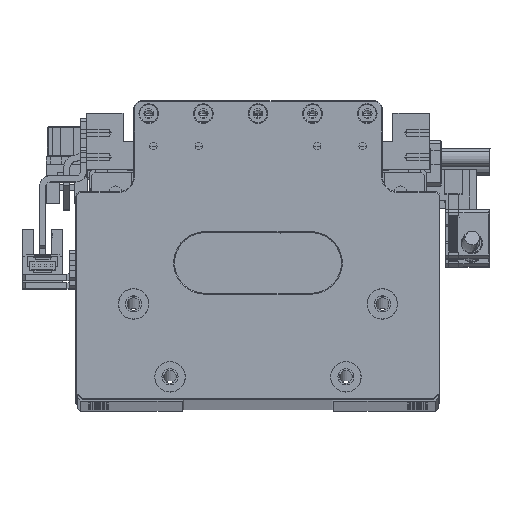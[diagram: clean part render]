
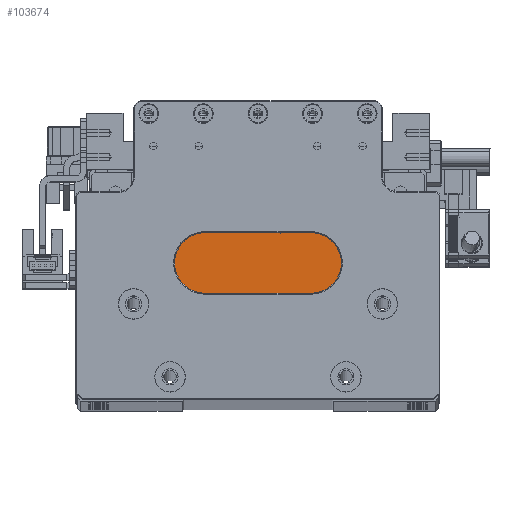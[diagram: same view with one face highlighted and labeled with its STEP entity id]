
A CAD part, top view. The second image highlights one B-rep face of the part: STEP entity #103674.
In plain terms, the highlighted planar face has unit normal (0, 0, 1).
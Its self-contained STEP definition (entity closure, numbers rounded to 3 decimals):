
#162 = VECTOR ( 'NONE', #56222, 1000. ) ;
#273 = CIRCLE ( 'NONE', #59998, 1.25 ) ;
#768 = CARTESIAN_POINT ( 'NONE',  ( -4.632, -9.023, 375. ) ) ;
#1049 = CIRCLE ( 'NONE', #133141, 1.25 ) ;
#3103 = CARTESIAN_POINT ( 'NONE',  ( -4.632, -9.223, 375. ) ) ;
#6518 = CARTESIAN_POINT ( 'NONE',  ( 2.868, -17.023, 375. ) ) ;
#8401 = VECTOR ( 'NONE', #45141, 1000. ) ;
#8698 = CIRCLE ( 'NONE', #129724, 1.25 ) ;
#11220 = PLANE ( 'NONE',  #21673 ) ;
#13493 = CARTESIAN_POINT ( 'NONE',  ( 1.618, -17.023, 375. ) ) ;
#15220 = DIRECTION ( 'NONE',  ( 1., 0., 0. ) ) ;
#15268 = CARTESIAN_POINT ( 'NONE',  ( -13.382, -17.023, 375. ) ) ;
#15994 = FACE_BOUND ( 'NONE', #131656, .T. ) ;
#16270 = LINE ( 'NONE', #3103, #68364 ) ;
#16947 = DIRECTION ( 'NONE',  ( 1., 0., 0. ) ) ;
#17912 = VERTEX_POINT ( 'NONE', #30763 ) ;
#18934 = EDGE_CURVE ( 'NONE', #51951, #94265, #50360, .T. ) ;
#19241 = FACE_BOUND ( 'NONE', #106502, .T. ) ;
#20158 = VERTEX_POINT ( 'NONE', #88902 ) ;
#21673 = AXIS2_PLACEMENT_3D ( 'NONE', #768, #42563, #115554 ) ;
#23333 = ORIENTED_EDGE ( 'NONE', *, *, #28332, .T. ) ;
#23500 = EDGE_LOOP ( 'NONE', ( #82358, #80773, #129849, #69520, #64693, #35219, #110335, #129970 ) ) ;
#24343 = DIRECTION ( 'NONE',  ( 0., 0., -1. ) ) ;
#25203 = CARTESIAN_POINT ( 'NONE',  ( 13.868, -17.023, 375. ) ) ;
#26273 = DIRECTION ( 'NONE',  ( 0., 1., 0. ) ) ;
#27765 = LINE ( 'NONE', #100348, #97898 ) ;
#28332 = EDGE_CURVE ( 'NONE', #77955, #126655, #8698, .T. ) ;
#30763 = CARTESIAN_POINT ( 'NONE',  ( -23.132, -9.223, 375. ) ) ;
#30892 = EDGE_CURVE ( 'NONE', #69921, #94593, #273, .T. ) ;
#32246 = EDGE_CURVE ( 'NONE', #117136, #63573, #110963, .T. ) ;
#33551 = DIRECTION ( 'NONE',  ( 0., 0., -1. ) ) ;
#34508 = ORIENTED_EDGE ( 'NONE', *, *, #73590, .T. ) ;
#35219 = ORIENTED_EDGE ( 'NONE', *, *, #18934, .T. ) ;
#37523 = CARTESIAN_POINT ( 'NONE',  ( -23.132, -17.023, 375. ) ) ;
#38745 = ORIENTED_EDGE ( 'NONE', *, *, #30892, .T. ) ;
#38858 = CARTESIAN_POINT ( 'NONE',  ( 25.168, -9.023, 375. ) ) ;
#39137 = EDGE_CURVE ( 'NONE', #94593, #69921, #69223, .T. ) ;
#40345 = DIRECTION ( 'NONE',  ( 1., 0., 0. ) ) ;
#42563 = DIRECTION ( 'NONE',  ( 0., 0., 1. ) ) ;
#43636 = FACE_OUTER_BOUND ( 'NONE', #23500, .T. ) ;
#44846 = EDGE_CURVE ( 'NONE', #94265, #66167, #91511, .T. ) ;
#45141 = DIRECTION ( 'NONE',  ( -1., 0., 0. ) ) ;
#49297 = DIRECTION ( 'NONE',  ( 0., 1., 0. ) ) ;
#50360 = LINE ( 'NONE', #38858, #102622 ) ;
#51951 = VERTEX_POINT ( 'NONE', #77062 ) ;
#52774 = VECTOR ( 'NONE', #26273, 1000. ) ;
#56222 = DIRECTION ( 'NONE',  ( -1., 0., 0. ) ) ;
#58092 = CARTESIAN_POINT ( 'NONE',  ( 25.168, -17.023, 375. ) ) ;
#58133 = CARTESIAN_POINT ( 'NONE',  ( 13.868, -9.023, 375. ) ) ;
#59998 = AXIS2_PLACEMENT_3D ( 'NONE', #6518, #79350, #16947 ) ;
#62364 = EDGE_CURVE ( 'NONE', #62847, #51951, #133070, .T. ) ;
#62847 = VERTEX_POINT ( 'NONE', #63088 ) ;
#63088 = CARTESIAN_POINT ( 'NONE',  ( -34.432, -49.223, 375. ) ) ;
#63573 = VERTEX_POINT ( 'NONE', #74780 ) ;
#64693 = ORIENTED_EDGE ( 'NONE', *, *, #62364, .T. ) ;
#66167 = VERTEX_POINT ( 'NONE', #25203 ) ;
#67964 = DIRECTION ( 'NONE',  ( 0., -1., 0. ) ) ;
#68364 = VECTOR ( 'NONE', #106904, 1000. ) ;
#69223 = CIRCLE ( 'NONE', #104348, 1.25 ) ;
#69520 = ORIENTED_EDGE ( 'NONE', *, *, #105336, .T. ) ;
#69921 = VERTEX_POINT ( 'NONE', #80399 ) ;
#73590 = EDGE_CURVE ( 'NONE', #126655, #77955, #1049, .T. ) ;
#74477 = LINE ( 'NONE', #99449, #105472 ) ;
#74780 = CARTESIAN_POINT ( 'NONE',  ( -34.432, -17.023, 375. ) ) ;
#77062 = CARTESIAN_POINT ( 'NONE',  ( 25.168, -49.223, 375. ) ) ;
#77591 = DIRECTION ( 'NONE',  ( 0., 0., -1. ) ) ;
#77593 = VECTOR ( 'NONE', #40345, 1000. ) ;
#77955 = VERTEX_POINT ( 'NONE', #15268 ) ;
#79350 = DIRECTION ( 'NONE',  ( 0., 0., -1. ) ) ;
#80399 = CARTESIAN_POINT ( 'NONE',  ( 4.118, -17.023, 375. ) ) ;
#80523 = LINE ( 'NONE', #58133, #52774 ) ;
#80773 = ORIENTED_EDGE ( 'NONE', *, *, #81780, .T. ) ;
#81780 = EDGE_CURVE ( 'NONE', #17912, #117136, #74477, .T. ) ;
#82358 = ORIENTED_EDGE ( 'NONE', *, *, #116907, .T. ) ;
#86158 = ORIENTED_EDGE ( 'NONE', *, *, #39137, .T. ) ;
#86800 = CARTESIAN_POINT ( 'NONE',  ( 2.868, -17.023, 375. ) ) ;
#88902 = CARTESIAN_POINT ( 'NONE',  ( 13.868, -9.223, 375. ) ) ;
#89904 = DIRECTION ( 'NONE',  ( 0., -1., 0. ) ) ;
#91511 = LINE ( 'NONE', #128596, #8401 ) ;
#94122 = CARTESIAN_POINT ( 'NONE',  ( -12.132, -17.023, 375. ) ) ;
#94265 = VERTEX_POINT ( 'NONE', #58092 ) ;
#94593 = VERTEX_POINT ( 'NONE', #13493 ) ;
#96090 = CARTESIAN_POINT ( 'NONE',  ( -12.132, -17.023, 375. ) ) ;
#97275 = DIRECTION ( 'NONE',  ( 1., 0., 0. ) ) ;
#97898 = VECTOR ( 'NONE', #89904, 1000. ) ;
#99449 = CARTESIAN_POINT ( 'NONE',  ( -23.132, -9.023, 375. ) ) ;
#100348 = CARTESIAN_POINT ( 'NONE',  ( -34.432, -9.023, 375. ) ) ;
#102622 = VECTOR ( 'NONE', #49297, 1000. ) ;
#103674 = ADVANCED_FACE ( 'NONE', ( #43636, #19241, #15994 ), #11220, .T. ) ;
#104348 = AXIS2_PLACEMENT_3D ( 'NONE', #86800, #24343, #97275 ) ;
#105336 = EDGE_CURVE ( 'NONE', #63573, #62847, #27765, .T. ) ;
#105472 = VECTOR ( 'NONE', #67964, 1000. ) ;
#106502 = EDGE_LOOP ( 'NONE', ( #38745, #86158 ) ) ;
#106515 = DIRECTION ( 'NONE',  ( 1., 0., 0. ) ) ;
#106904 = DIRECTION ( 'NONE',  ( -1., 0., 0. ) ) ;
#108218 = CARTESIAN_POINT ( 'NONE',  ( -4.632, -17.023, 375. ) ) ;
#110335 = ORIENTED_EDGE ( 'NONE', *, *, #44846, .T. ) ;
#110963 = LINE ( 'NONE', #108218, #162 ) ;
#115554 = DIRECTION ( 'NONE',  ( 1., 0., 0. ) ) ;
#116907 = EDGE_CURVE ( 'NONE', #20158, #17912, #16270, .T. ) ;
#117136 = VERTEX_POINT ( 'NONE', #37523 ) ;
#120533 = EDGE_CURVE ( 'NONE', #66167, #20158, #80523, .T. ) ;
#123344 = CARTESIAN_POINT ( 'NONE',  ( -34.632, -49.223, 375. ) ) ;
#126655 = VERTEX_POINT ( 'NONE', #130203 ) ;
#128596 = CARTESIAN_POINT ( 'NONE',  ( -4.632, -17.023, 375. ) ) ;
#129724 = AXIS2_PLACEMENT_3D ( 'NONE', #96090, #33551, #106515 ) ;
#129849 = ORIENTED_EDGE ( 'NONE', *, *, #32246, .T. ) ;
#129970 = ORIENTED_EDGE ( 'NONE', *, *, #120533, .T. ) ;
#130203 = CARTESIAN_POINT ( 'NONE',  ( -10.882, -17.023, 375. ) ) ;
#131656 = EDGE_LOOP ( 'NONE', ( #34508, #23333 ) ) ;
#133070 = LINE ( 'NONE', #123344, #77593 ) ;
#133141 = AXIS2_PLACEMENT_3D ( 'NONE', #94122, #77591, #15220 ) ;
